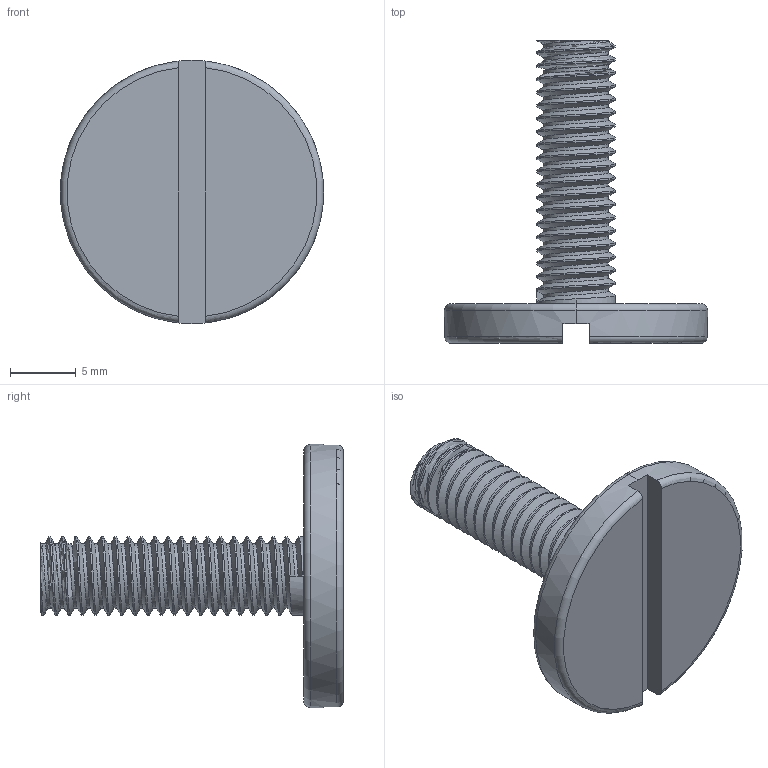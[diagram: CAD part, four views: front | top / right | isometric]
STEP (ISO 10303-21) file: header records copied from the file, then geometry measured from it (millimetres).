
FILE_DESCRIPTION (( 'STEP AP214' ), '1' );
FILE_NAME ('1.2032 Lattapääruuvi M6x20.STEP', '2025-09-26T06:13:02', ( '' ), ( '' ), 'SwSTEP 2.0', 'SolidWorks 2025', '' );
FILE_SCHEMA (( 'AUTOMOTIVE_DESIGN' ));
Length unit declared in the file: millimetre
Products named in the file (1): 1.2032 Lattapääruuvi M6x20
Bounding box: 20 x 23 x 20 mm (x, y, z)
Volume: 1337.9 mm3; surface area: 1387.4 mm2
Topology: 1 solids, 1 shells, 57 faces, 160 edges, 106 vertices
Faces by surface type: cylinder 42, plane 8, torus 4, bspline 3
Entity records: 4804 total; most frequent: CARTESIAN_POINT 3562, ORIENTED_EDGE 320, DIRECTION 198, EDGE_CURVE 160, VERTEX_POINT 106, AXIS2_PLACEMENT_3D 72, EDGE_LOOP 58, ADVANCED_FACE 57
